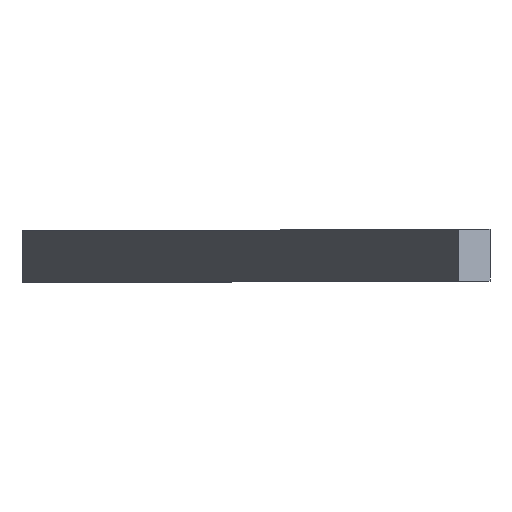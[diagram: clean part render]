
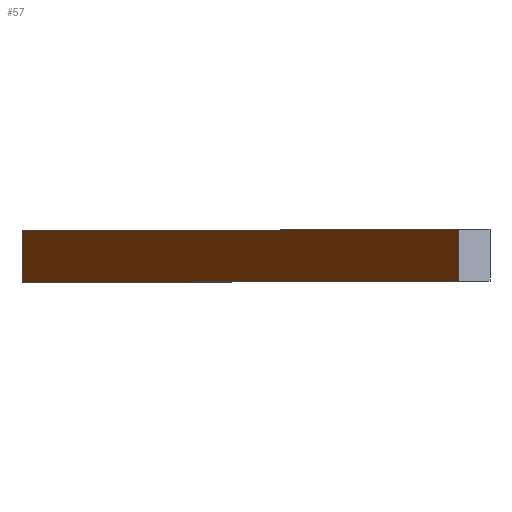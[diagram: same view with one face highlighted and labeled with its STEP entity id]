
A CAD part, top view. The second image highlights one B-rep face of the part: STEP entity #57.
In plain terms, the highlighted planar face has unit normal (-0.906, 0, 0.423).
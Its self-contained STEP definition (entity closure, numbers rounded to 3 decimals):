
#32 = VERTEX_POINT('',#33);
#33 = CARTESIAN_POINT('',(10.982,-15.,-1291.313));
#39 = EDGE_CURVE('',#40,#32,#42,.T.);
#40 = VERTEX_POINT('',#41);
#41 = CARTESIAN_POINT('',(264.553,-15.,-747.528));
#42 = LINE('',#43,#44);
#43 = CARTESIAN_POINT('',(264.553,-15.,-747.528));
#44 = VECTOR('',#45,1.);
#45 = DIRECTION('',(-0.423,0.,-0.906));
#57 = ADVANCED_FACE('',(#58),#83,.F.);
#58 = FACE_BOUND('',#59,.F.);
#59 = EDGE_LOOP('',(#60,#61,#69,#77));
#60 = ORIENTED_EDGE('',*,*,#39,.T.);
#61 = ORIENTED_EDGE('',*,*,#62,.T.);
#62 = EDGE_CURVE('',#32,#63,#65,.T.);
#63 = VERTEX_POINT('',#64);
#64 = CARTESIAN_POINT('',(10.982,15.,-1291.313));
#65 = LINE('',#66,#67);
#66 = CARTESIAN_POINT('',(10.982,-15.,-1291.313));
#67 = VECTOR('',#68,1.);
#68 = DIRECTION('',(0.,1.,0.));
#69 = ORIENTED_EDGE('',*,*,#70,.F.);
#70 = EDGE_CURVE('',#71,#63,#73,.T.);
#71 = VERTEX_POINT('',#72);
#72 = CARTESIAN_POINT('',(264.553,15.,-747.528));
#73 = LINE('',#74,#75);
#74 = CARTESIAN_POINT('',(264.553,15.,-747.528));
#75 = VECTOR('',#76,1.);
#76 = DIRECTION('',(-0.423,0.,-0.906));
#77 = ORIENTED_EDGE('',*,*,#78,.F.);
#78 = EDGE_CURVE('',#40,#71,#79,.T.);
#79 = LINE('',#80,#81);
#80 = CARTESIAN_POINT('',(264.553,-15.,-747.528));
#81 = VECTOR('',#82,1.);
#82 = DIRECTION('',(0.,1.,0.));
#83 = PLANE('',#84);
#84 = AXIS2_PLACEMENT_3D('',#85,#86,#87);
#85 = CARTESIAN_POINT('',(264.553,-15.,-747.528));
#86 = DIRECTION('',(0.906,0.,-0.423));
#87 = DIRECTION('',(0.,1.,0.));
